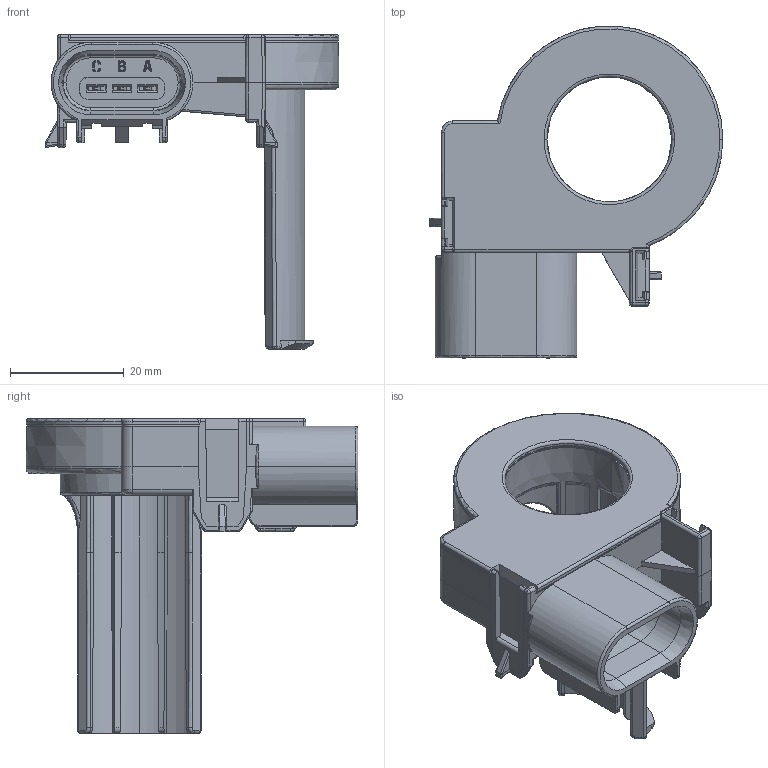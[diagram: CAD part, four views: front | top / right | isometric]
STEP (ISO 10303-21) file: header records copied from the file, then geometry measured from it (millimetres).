
FILE_DESCRIPTION(('CoCreate Modeling STEP Export'),'2;1');
FILE_NAME('HAB-BBOX-LONG-CONNECTOR-VERSION-20100920.stp','2010-09-20T14:21:22',(''),(''),'CoCreate Modeling STEP processor for AP214 (Solid Model)','CoCreate Modeling 16.00A 16-Aug-2008 (C) Parametric Technology GmbH','');
FILE_SCHEMA(('AUTOMOTIVE_DESIGN { 1 0 10303 214 1 1 1 1 }'));
Products named in the file (2): HAB-BBOX-LONG-CONNECTOR-VERSION
Assembly tree (1 placements, depth 2):
  HAB-BBOX-LONG-CONNECTOR-VERSION
    HAB-BBOX-LONG-CONNECTOR-VERSION
Bounding box: 51.75 x 58.48 x 55.5 mm (x, y, z)
Volume: 18211.7 mm3; surface area: 11968.5 mm2
Topology: 1 solids, 1 shells, 1889 faces, 5268 edges, 3440 vertices
Faces by surface type: plane 1540, cylinder 206, bspline 57, torus 39, cone 36, sphere 6, extrusion 5
Entity records: 69374 total; most frequent: CARTESIAN_POINT 21407, ORIENTED_EDGE 10524, DIRECTION 8831, EDGE_CURVE 5262, VECTOR 4535, LINE 4530, VERTEX_POINT 3440, AXIS2_PLACEMENT_3D 2148
